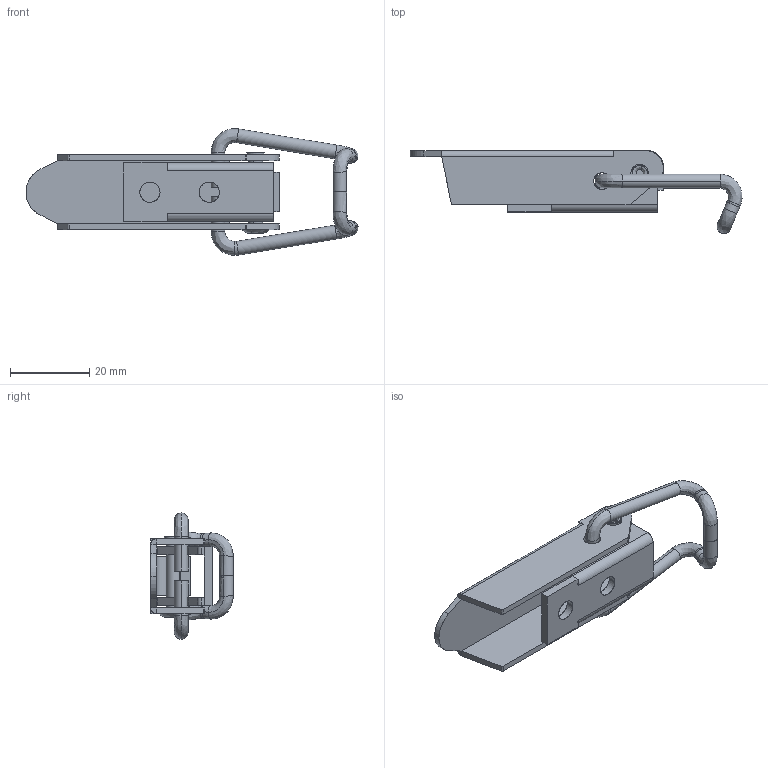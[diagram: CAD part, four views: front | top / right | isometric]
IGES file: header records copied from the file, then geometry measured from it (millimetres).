
Start section: SolidWorks IGES FILE using analytic representation for surfaces
Global section: file name: C:\Documents and Settings\lecoutey\Bureau\GO 543\GO 543.IGS; native system: SolidWorks 2004 by SolidWorks Corporation; preprocessor: Version 5.3; author: lecoutey; date: 050329.120442; units: millimetre
Bounding box: 83.86 x 20.9 x 32 mm (x, y, z)
Surface area: 8933.3 mm2 (no closed solid volume)
Topology: 0 solids, 0 shells, 140 faces, 1780 edges, 1780 vertices
Faces by surface type: bspline 85, revolution 55
